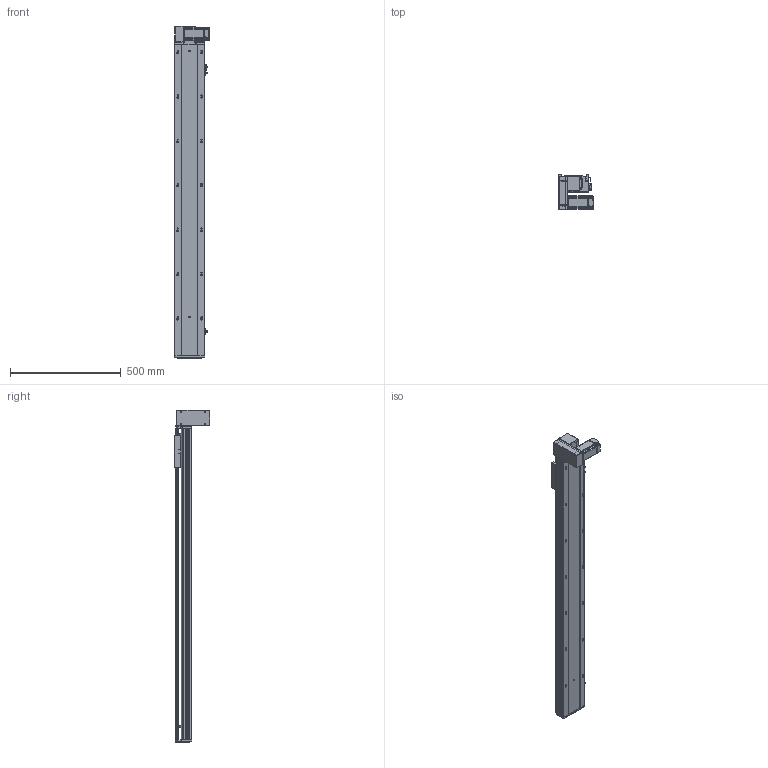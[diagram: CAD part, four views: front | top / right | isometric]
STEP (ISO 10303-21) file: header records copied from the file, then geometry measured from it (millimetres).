
FILE_DESCRIPTION (( 'STEP AP203' ), '1' );
FILE_NAME ('RY140-T-300-DL.SLDASM_1150.step', '2021-03-01T06:06:38', ( '盈信电脑' ), ( '东莞市道滘镇水果街19号' ), 'SwSTEP 2.0', 'SolidWorks 2012', '' );
FILE_SCHEMA (( 'CONFIG_CONTROL_DESIGN' ));
Length unit declared in the file: millimetre
Products named in the file (18): RY140-T-300-DL.SLDASM_1150; RY140-T翋肮謫裔啣; RY120-T蹟翐M4; RY140-T萇儂欶; 滅袉蝶18-10; RY140-T萇儂假蚾啣; 侂狟400W侜督萇儂; 15; RY120-T主同步轮轴承压盖; RY120-T肮祭湍揤踡輸2; RY140-T翋肮祭謫盓傅釱; RY120-T肮祭湍揤踡輸1; RY120外置感应片(140共用）; RY140綴裔啣; RY140-T-300-DL倰第奻裔啣_1150; RY140肮祭謫臏賑輸; 覜茼ん672; RY140-T-300-DL倰第菁釱_1150
Assembly tree (23 placements, depth 3):
  RY140-T-300-DL.SLDASM_1150
    RY140-T-300-DL倰第菁釱_1150
    RY140肮祭謫臏賑輸
    RY140-T-300-DL倰第奻裔啣_1150
    RY140綴裔啣
    覜茼ん672  x3
    RY120外置感应片(140共用）
    RY120-T肮祭湍揤踡輸2
    RY120-T肮祭湍揤踡輸1
    RY140-T翋肮祭謫盓傅釱
    RY140-T萇儂假蚾啣
    侂狟400W侜督萇儂
      15
    RY120-T主同步轮轴承压盖
    RY120-T蹟翐M4  x4
    RY140-T萇儂欶
    滅袉蝶18-10  x2
    RY140-T翋肮謫裔啣
Bounding box: 157 x 158.5 x 1496 mm (x, y, z)
Volume: 4356814.4 mm3; surface area: 1670952.9 mm2
Topology: 22 solids, 22 shells, 2698 faces, 7370 edges, 4720 vertices
Faces by surface type: plane 1385, cylinder 983, cone 230, bspline 100
Entity records: 85076 total; most frequent: CARTESIAN_POINT 20651, ORIENTED_EDGE 13204, DIRECTION 12608, EDGE_CURVE 6602, VERTEX_POINT 4319, VECTOR 4230, LINE 4230, AXIS2_PLACEMENT_3D 4189
